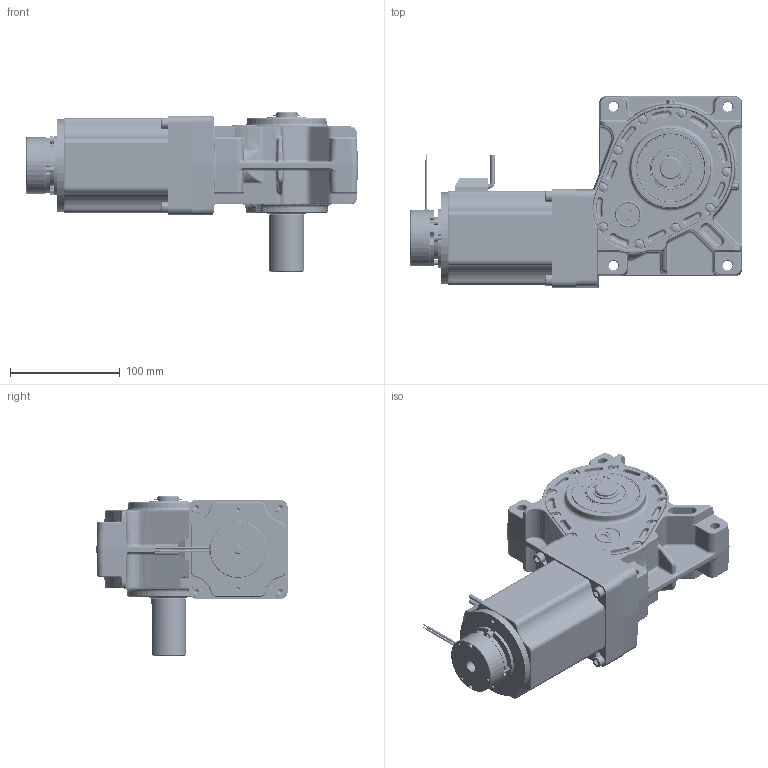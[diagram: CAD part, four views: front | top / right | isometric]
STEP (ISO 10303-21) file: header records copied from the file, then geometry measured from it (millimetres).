
FILE_DESCRIPTION (( 'STEP AP214' ), '1' );
FILE_NAME ('PBL86-55-GB65 - Brake - Shaft.STEP', '2024-09-15T09:38:13', ( '' ), ( '' ), 'SwSTEP 2.0', 'SolidWorks 2023', '' );
FILE_SCHEMA (( 'AUTOMOTIVE_DESIGN' ));
Length unit declared in the file: millimetre
Products named in the file (1): PBL86-55-GB65 - Brake - Shaft
Bounding box: 302.19 x 174.1 x 145 mm (x, y, z)
Surface area: 408693 mm2 (no closed solid volume)
Topology: 0 solids, 75 shells, 5637 faces, 14135 edges, 8609 vertices
Faces by surface type: cylinder 1784, bspline 1217, plane 1175, torus 710, cone 591, sphere 160
Entity records: 291383 total; most frequent: CARTESIAN_POINT 102630, ORIENTED_EDGE 27676, DIRECTION 25205, EDGE_CURVE 13840, AXIS2_PLACEMENT_3D 10299, VERTEX_POINT 8589, EDGE_LOOP 5986, CIRCLE 5878
